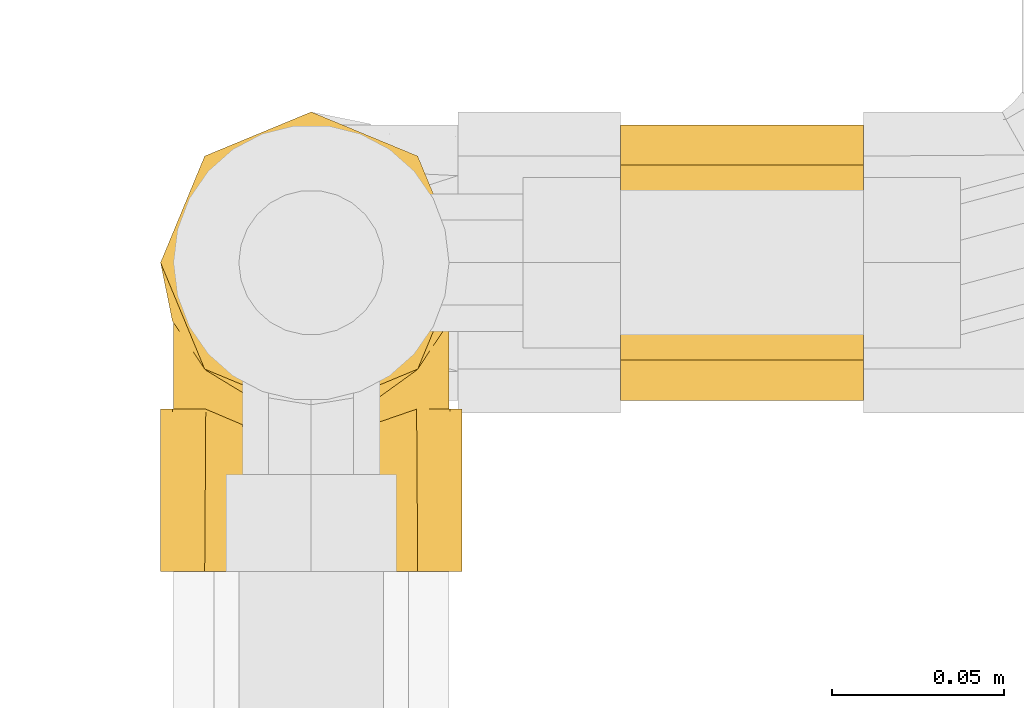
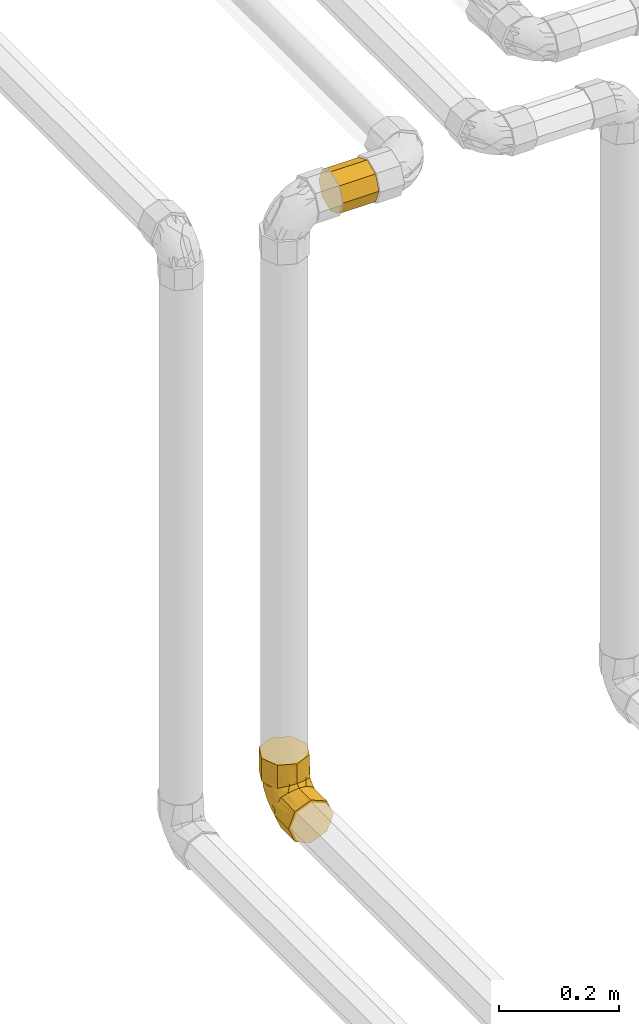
# One storey, part 250 of 652: 2 coverings.
"""IFC2X3 building model written with IfcOpenShell, lengths in millimetres."""

from ifc_helpers import new_model, entity, si_unit, converted_unit, direction, frame, origin, place, context, subcontext, project, spatial, faceted_brep, material, type_object, element, save


model = new_model("IFC2X3")

# Units and contexts
model_context = context("Model", 3, precision=0.01, world=frame((0.0, 0.0, 308426.39999999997)), true_north=direction((6.123233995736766e-17, 1.0)))
plan_context = context("Plan", 3, precision=0.01, world=frame((0.0, 0.0, 308426.39999999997)), true_north=direction((6.123233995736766e-17, 1.0)))
body_context = subcontext(model_context, "Body", "Model", "MODEL_VIEW")
ifc_project = project(units=[si_unit("LENGTHUNIT", "METRE", prefix="MILLI"), si_unit("AREAUNIT", "SQUARE_METRE"), si_unit("VOLUMEUNIT", "CUBIC_METRE"), converted_unit("PLANEANGLEUNIT", "DEGREE", entity("IfcPlaneAngleMeasure", 0.017453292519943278), si_unit("PLANEANGLEUNIT", "RADIAN"), dimensions=[0, 0, 0, 0, 0, 0, 0])], contexts=[model_context, plan_context])

# Site, building, storey
site_placement = place(None, origin())
site = spatial("IfcSite", under=ifc_project, at=site_placement, Name="Default", CompositionType="ELEMENT")
building_placement = place(site_placement, origin())
building = spatial("IfcBuilding", under=site, at=building_placement, CompositionType="ELEMENT")
storey_placement = place(building_placement, frame((0.0, 0.0, 1730.6999999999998)))
storey = spatial("IfcBuildingStorey", under=building, at=storey_placement, Name="EG_Produktion_FFB", CompositionType="ELEMENT", Elevation=1730.6999999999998)

# Coverings
ifc_material = material(Name="Dämmung - Armaflex-Schlauch")
covering_type = type_object("IfcCoveringType", Name="Rohrdämmung außen:Armaflex-Schlauch", PredefinedType="INSULATION")
covering_1_placement = place(storey_placement, frame((78684.68472776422, 51548.30835396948, 2354.684727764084)))
element("IfcCovering", 1, at=covering_1_placement, inside=storey, type_object=covering_type, material=ifc_material, Name="Rohrdämmung außen:Armaflex-Schlauch", ObjectType="Rohrdämmung außen:Armaflex-Schlauch", PredefinedType="INSULATION", context=body_context, shape_type="Brep", body=[
    faceted_brep([(89.03527223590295, 89.7200000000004, 87.85527223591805), (87.32560271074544, 81.24510874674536, 87.85527223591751), (85.61593318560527, 72.77021749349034, 87.85527223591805), (80.76173107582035, 65.62819301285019, 87.85527223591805), (75.90752896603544, 58.48616853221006, 87.85527223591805), (80.04887855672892, 67.59976223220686, 87.85527223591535), (84.19022814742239, 76.71335593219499, 87.85527223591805), (85.31527223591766, 86.71350835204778, 87.85527223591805), (81.774732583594, 94.40209709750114, 87.85527223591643), (78.23419293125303, 102.09068584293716, 87.85527223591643), (74.38937834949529, 110.44003397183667, 87.85527223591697), (70.54456376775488, 118.78938210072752, 87.85527223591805), (57.92991800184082, 123.35795944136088, 87.85527223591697), (45.315272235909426, 127.92653678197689, 87.85527223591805), (37.43329692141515, 123.99884456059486, 87.85527223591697), (29.551321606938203, 120.07115233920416, 87.85527223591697), (21.6693462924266, 116.14346011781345, 87.85527223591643), (13.78737097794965, 112.21576789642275, 87.85527223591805), (10.718682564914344, 102.97856578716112, 87.85527223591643), (8.016977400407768, 94.84603706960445, 87.85527223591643), (5.315272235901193, 86.71350835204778, 87.85527223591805), (6.153990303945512, 82.95558245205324, 87.85527223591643), (6.9927083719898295, 79.19765655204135, 87.85527223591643), (8.33413587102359, 73.18731131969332, 87.85527223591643), (9.675563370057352, 67.17696608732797, 87.85527223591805), (14.723015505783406, 58.48616853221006, 87.85527223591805), (9.868813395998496, 65.62819301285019, 87.85527223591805), (5.014611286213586, 72.77021749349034, 87.85527223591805), (3.3049417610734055, 81.24510874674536, 87.85527223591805), (1.5952722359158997, 89.7200000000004, 87.85527223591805), (5.076533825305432, 98.12450894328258, 87.85527223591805), (7.997917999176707, 105.17735423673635, 87.85527223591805), (11.19924088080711, 112.90603135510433, 87.85527223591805), (14.400563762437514, 120.6347084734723, 87.85527223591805), (22.129240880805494, 123.8360313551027, 87.85527223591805), (29.85791799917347, 127.03735423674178, 87.85527223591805), (36.910764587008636, 129.95873894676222, 87.85527223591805), (45.315272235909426, 133.43999999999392, 87.85527223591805), (53.71978107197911, 129.95873845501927, 87.85527223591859), (60.772626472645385, 127.03735423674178, 87.85527223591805), (68.50130359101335, 123.8360313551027, 87.85527223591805), (76.22998070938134, 120.6347084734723, 87.85527223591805), (79.43130359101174, 112.90603135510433, 87.85527223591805), (82.63262647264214, 105.17735423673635, 87.85527223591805), (85.55401122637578, 98.12450754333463, 87.85527223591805), (5.076533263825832, 81.31549241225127, 135.03527223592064), (7.997917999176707, 74.26264576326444, 135.03527223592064), (11.19924088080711, 66.53396864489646, 135.03527223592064), (14.400563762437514, 58.805291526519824, 135.03527223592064), (22.129240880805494, 55.60396864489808, 135.03527223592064), (29.85791799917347, 52.40264576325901, 135.03527223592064), (37.58659511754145, 49.201322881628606, 135.03527223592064), (45.315272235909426, 46.0, 135.03527223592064), (53.719779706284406, 49.48126097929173, 135.03527223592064), (60.772626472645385, 52.40264576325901, 135.03527223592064), (68.50130359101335, 55.60396864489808, 135.03527223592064), (76.22998070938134, 58.805291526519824, 135.03527223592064), (79.43130359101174, 66.53396864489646, 135.03527223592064), (82.63262647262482, 74.26264576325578, 135.03527223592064), (85.83394935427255, 81.99132288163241, 135.03527223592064), (89.03527223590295, 89.7200000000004, 135.03527223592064), (85.83394935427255, 97.44867711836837, 135.03527223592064), (82.63262647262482, 105.17735423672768, 135.03527223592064), (79.43130359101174, 112.90603135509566, 135.03527223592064), (76.22998070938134, 120.6347084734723, 135.03527223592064), (68.50130359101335, 123.8360313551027, 135.03527223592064), (60.772626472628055, 127.03735423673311, 135.03527223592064), (53.0439493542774, 130.23867711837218, 135.03527223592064), (45.315272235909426, 133.43999999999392, 135.03527223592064), (37.58659511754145, 130.23867711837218, 135.03527223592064), (29.85791799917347, 127.03735423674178, 135.03527223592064), (22.129240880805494, 123.8360313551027, 135.03527223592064), (14.400563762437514, 120.6347084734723, 135.03527223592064), (11.479179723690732, 113.58186350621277, 135.03527223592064), (8.557795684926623, 106.52901853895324, 135.03527223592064), (5.076533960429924, 98.12450926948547, 135.03527223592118), (1.5952722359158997, 89.7200000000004, 135.03527223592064), (45.315272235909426, 46.0, 94.75489207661), (31.66279583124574, 48.18629937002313, 93.70357391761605), (23.192905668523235, 53.336233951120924, 90.77942307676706), (55.29456727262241, 48.41075141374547, 93.56571370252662), (65.27386230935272, 50.821502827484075, 92.37653532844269), (70.59069563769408, 54.65383567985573, 90.1159037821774), (89.03527223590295, 47.18000000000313, 45.31527223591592), (85.55401092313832, 47.18000000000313, 36.91076396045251), (82.63262647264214, 47.18000000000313, 29.8579179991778), (79.43130359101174, 47.18000000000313, 22.12924088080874), (76.22998070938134, 47.18000000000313, 14.400563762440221), (68.50130359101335, 47.18000000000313, 11.199240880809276), (60.772626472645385, 47.18000000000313, 7.9979179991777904), (53.719779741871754, 47.18000000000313, 5.076533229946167), (45.315272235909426, 47.18000000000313, 1.5952722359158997), (36.910763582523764, 47.18000000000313, 5.076533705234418), (29.85791799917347, 47.18000000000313, 7.9979179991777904), (22.129240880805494, 47.18000000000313, 11.199240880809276), (14.400563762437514, 47.18000000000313, 14.400563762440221), (11.19924088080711, 47.18000000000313, 22.12924088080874), (7.997917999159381, 47.18000000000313, 29.8579179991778), (5.076533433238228, 47.18000000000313, 36.91076423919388), (1.5952722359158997, 47.18000000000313, 45.31527223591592), (3.3049417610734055, 47.18000000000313, 53.79016348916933), (5.014611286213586, 47.18000000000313, 62.26505474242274), (9.868813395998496, 47.18000000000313, 69.40707922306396), (14.723015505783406, 47.18000000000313, 76.54910370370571), (10.581665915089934, 47.18000000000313, 67.4355100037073), (6.440316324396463, 47.18000000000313, 58.3219163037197), (5.315272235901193, 47.18000000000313, 48.32176388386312), (8.855811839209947, 47.18000000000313, 40.63317524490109), (12.396351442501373, 47.18000000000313, 32.944586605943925), (16.24116607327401, 47.18000000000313, 24.595238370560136), (20.085980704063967, 47.18000000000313, 16.24589013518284), (32.70062646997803, 47.18000000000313, 11.677312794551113), (45.315272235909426, 47.18000000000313, 7.108735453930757), (52.966063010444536, 47.18000000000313, 10.921225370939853), (60.61685378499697, 47.18000000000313, 14.733715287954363), (68.73001363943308, 47.18000000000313, 18.77660981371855), (76.8431734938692, 47.18000000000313, 22.819504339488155), (79.91186200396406, 47.18000000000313, 32.0567067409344), (82.61356711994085, 47.18000000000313, 40.18923531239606), (85.31527223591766, 47.18000000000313, 48.32176388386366), (84.47655407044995, 47.18000000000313, 52.07969022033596), (83.63783590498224, 47.18000000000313, 55.837616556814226), (82.29640850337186, 47.18000000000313, 61.847961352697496), (80.9549811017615, 47.18000000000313, 67.85830614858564), (75.90752896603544, 47.18000000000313, 76.54910370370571), (80.76173107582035, 47.18000000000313, 69.40707922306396), (85.61593318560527, 47.18000000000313, 62.26505474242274), (87.32560271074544, 47.18000000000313, 53.79016348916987), (4.796595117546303, 0.0, 37.586595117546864), (7.997917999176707, 0.0, 29.8579179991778), (11.19924088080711, 0.0, 22.12924088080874), (14.400563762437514, 0.0, 14.400563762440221), (21.45340882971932, 0.0, 11.479179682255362), (28.506253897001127, 0.0, 8.557795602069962), (36.910763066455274, 0.0, 5.076533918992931), (45.315272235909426, 0.0, 1.5952722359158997), (53.0439493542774, 0.0, 4.796595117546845), (60.772626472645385, 0.0, 7.9979179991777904), (68.50130359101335, 0.0, 11.199240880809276), (76.22998070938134, 0.0, 14.400563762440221), (79.15136521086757, 0.0, 21.453409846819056), (82.07274971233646, 0.0, 28.50625593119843), (85.55401097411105, 0.0, 36.910764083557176), (89.03527223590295, 0.0, 45.31527223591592), (85.55401125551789, 0.0, 53.719779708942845), (82.63262647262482, 0.0, 60.772626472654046), (79.43130359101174, 0.0, 68.5013035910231), (76.22998070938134, 0.0, 76.22998070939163), (68.50130359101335, 0.0, 79.43130359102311), (60.772626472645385, 0.0, 82.63262647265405), (53.0439493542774, 0.0, 85.833949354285), (45.315272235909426, 0.0, 89.03527223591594), (36.910764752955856, 0.0, 85.55401125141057), (29.85791799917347, 0.0, 82.63262647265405), (22.129240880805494, 0.0, 79.43130359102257), (14.400563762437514, 0.0, 76.22998070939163), (11.19924088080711, 0.0, 68.50130359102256), (7.997917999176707, 0.0, 60.772626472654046), (5.076533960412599, 0.0, 53.71978150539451), (1.5952722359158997, 0.0, 45.31527223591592), (35.33597719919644, 41.46955853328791, 86.62452082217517), (45.315272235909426, 40.28038015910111, 89.03527223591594), (25.356682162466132, 42.65873690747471, 84.21376940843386), (20.03984883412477, 44.91936845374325, 80.38143655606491), (58.96774864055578, 41.3316983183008, 86.84897286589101), (67.43763880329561, 44.25584915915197, 81.69903828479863), (12.764668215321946, 102.49262153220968, 66.03128520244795), (7.785872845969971, 83.60598863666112, 55.76616911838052), (8.104982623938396, 95.30418911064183, 70.75443349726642), (6.007022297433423, 71.60753704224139, 53.304196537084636), (5.315272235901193, 59.43767565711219, 55.83084240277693), (5.315272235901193, 61.22785128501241, 56.927507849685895), (5.315272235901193, 66.46160129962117, 60.13371438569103), (5.315272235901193, 71.69535131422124, 63.339920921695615), (5.8643133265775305, 83.66921529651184, 67.29968041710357), (24.578220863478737, 117.4042755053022, 72.12613198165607), (18.409126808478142, 111.85790663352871, 70.74159626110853), (18.91974193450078, 70.85529611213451, 25.809725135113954), (12.401297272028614, 67.52213053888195, 32.33216175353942), (27.82104943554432, 83.79232970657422, 26.756767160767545), (25.71861098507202, 64.52790148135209, 17.558758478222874), (14.905828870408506, 90.43203439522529, 45.32915426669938), (17.6070351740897, 102.6618732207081, 55.64407439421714), (22.306000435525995, 94.87008754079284, 40.24215163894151), (10.642924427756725, 80.53327920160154, 44.412957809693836), (45.315272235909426, 118.67320029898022, 72.64450076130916), (35.03711460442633, 119.31424049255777, 65.21420834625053), (35.87780622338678, 89.03482051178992, 26.98658607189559), (35.333219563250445, 72.1516327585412, 16.736109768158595), (7.9767390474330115, 66.97723217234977, 41.635654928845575), (23.669456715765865, 109.3213085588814, 57.108109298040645), (35.14732952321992, 103.31508755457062, 40.52288095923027), (28.005805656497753, 103.30286827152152, 44.5457728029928), (45.315272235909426, 90.91319084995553, 27.012186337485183), (45.315272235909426, 65.21083649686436, 15.314765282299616), (45.315272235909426, 109.41986381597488, 57.43372928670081), (45.315272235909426, 100.16652733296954, 42.22295781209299), (5.315272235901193, 54.20392564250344, 52.624635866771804), (5.315272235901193, 74.90155815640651, 68.57367143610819), (5.315272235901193, 78.10776499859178, 73.80742195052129), (5.315272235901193, 82.41063667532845, 80.83134709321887), (5.315272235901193, 84.56207251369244, 84.34330966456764), (6.515026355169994, 56.25886182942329, 63.30579836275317), (6.523604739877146, 62.03791845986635, 67.67516595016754), (6.8388078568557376, 70.10566319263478, 78.5151450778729), (5.95142486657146, 68.23490048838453, 69.99439310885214), (8.011933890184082, 62.99433546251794, 75.12919781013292), (9.284155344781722, 54.79248262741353, 71.60390920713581), (45.315272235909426, 43.41108006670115, 91.62419216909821), (21.350681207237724, 48.835072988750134, 85.7741646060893), (12.878665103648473, 55.14442201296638, 79.89085011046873), (9.509001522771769, 64.13683945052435, 82.0024111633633), (82.61861054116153, 59.90607457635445, 72.04093705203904), (81.34638912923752, 63.43136347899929, 80.24279019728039), (77.75188031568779, 55.14442294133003, 79.89084918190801), (85.31527223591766, 78.10776499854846, 73.807421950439), (85.31527223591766, 79.20442983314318, 75.59759657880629), (85.31527223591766, 82.41063667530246, 80.83134709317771), (69.27986274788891, 49.261107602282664, 86.20019977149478), (81.12154256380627, 53.0328610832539, 70.89843373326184), (83.79173653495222, 56.520126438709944, 64.92960889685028), (84.10693976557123, 67.36010606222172, 72.99735331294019), (84.67911968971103, 65.04087848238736, 66.80037051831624), (85.31527223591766, 71.69535131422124, 63.339920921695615), (84.11551813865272, 71.72947358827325, 78.77640980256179), (85.31527223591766, 74.90155815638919, 68.57367143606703), (85.31527223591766, 50.69196282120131, 50.473199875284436), (85.31527223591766, 54.20392564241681, 52.62463586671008), (85.31527223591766, 61.22785128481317, 56.927507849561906), (85.31527223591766, 66.4616012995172, 60.133714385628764), (71.91409724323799, 64.51661720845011, 22.972542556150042), (65.71218477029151, 62.891723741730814, 17.405455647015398), (66.83340013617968, 77.88843229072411, 25.594293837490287), (58.71549396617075, 93.66203085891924, 32.30040737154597), (67.03603928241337, 94.88135093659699, 39.02887162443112), (54.359193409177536, 119.67254054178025, 65.25953143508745), (56.778590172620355, 72.87900692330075, 17.555433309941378), (84.62352215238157, 81.73107619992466, 63.42773562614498), (82.65281657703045, 93.40104666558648, 68.05540963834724), (82.84467155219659, 79.26910431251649, 51.429284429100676), (79.98754021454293, 90.61961422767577, 54.498556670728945), (82.52556187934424, 64.28083963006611, 39.73108369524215), (84.76623113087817, 67.73559194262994, 51.36605692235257), (75.72471529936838, 89.70612046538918, 44.60323981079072), (77.86587628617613, 69.00398843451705, 32.54265152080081), (72.96044433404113, 79.38016234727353, 32.29248434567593), (71.9683491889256, 108.77974526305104, 63.826234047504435), (78.28376597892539, 102.9680398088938, 68.19116674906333), (62.671083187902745, 108.54428370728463, 51.50952341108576), (63.12603991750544, 118.44866051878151, 70.38974905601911), (53.60445762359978, 107.59283931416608, 44.98128137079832)], [[[0, 1, 2, 3, 4, 5, 6, 7, 8, 9, 10, 11, 12, 13, 14, 15, 16, 17, 18, 19, 20, 21, 22, 23, 24, 25, 26, 27, 28, 29, 30, 31, 32, 33, 34, 35, 36, 37, 38, 39, 40, 41, 42, 43, 44]], [[45, 46, 47, 48, 49, 50, 51, 52, 53, 54, 55, 56, 57, 58, 59, 60, 61, 62, 63, 64, 65, 66, 67, 68, 69, 70, 71, 72, 73, 74, 75, 76]], [[45, 27, 47, 46]], [[77, 51, 78]], [[78, 50, 79]], [[51, 77, 52]], [[25, 79, 49]], [[27, 45, 28]], [[48, 26, 25]], [[51, 50, 78]], [[76, 28, 45]], [[76, 29, 28]], [[47, 27, 26]], [[26, 48, 47]], [[25, 49, 48]], [[79, 50, 49]], [[30, 29, 76, 75, 74, 73, 72, 33, 32, 31]], [[33, 72, 71, 70, 69, 68, 37, 36, 35, 34]], [[0, 44, 43, 42, 41, 64, 63, 62, 61, 60]], [[66, 65, 64, 41, 40, 39, 38, 37, 68, 67]], [[3, 57, 56]], [[60, 59, 0]], [[80, 54, 53]], [[58, 2, 1]], [[58, 57, 2]], [[55, 81, 82, 4]], [[53, 77, 80]], [[2, 57, 3]], [[1, 59, 58]], [[56, 4, 3]], [[54, 80, 81]], [[0, 59, 1]], [[53, 52, 77]], [[55, 4, 56]], [[55, 54, 81]], [[83, 84, 85, 86, 87, 88, 89, 90, 91, 92, 93, 94, 95, 96, 97, 98, 99, 100, 101, 102, 103, 104, 105, 106, 107, 108, 109, 110, 111, 112, 113, 114, 115, 116, 117, 118, 119, 120, 121, 122, 123, 124, 125, 126, 127]], [[128, 129, 130, 131, 132, 133, 134, 135, 136, 137, 138, 139, 140, 141, 142, 143, 144, 145, 146, 147, 148, 149, 150, 151, 152, 153, 154, 155, 156, 157, 158, 159]], [[133, 132, 131, 95, 94, 93, 92, 91, 135, 134]], [[95, 131, 130, 129, 128, 159, 99, 98, 97, 96]], [[102, 156, 155]], [[160, 153, 152]], [[99, 159, 100]], [[157, 156, 101, 158]], [[158, 101, 100]], [[152, 161, 160]], [[101, 156, 102]], [[154, 162, 163, 103]], [[155, 103, 102]], [[153, 160, 162]], [[159, 158, 100]], [[152, 151, 161]], [[154, 103, 155]], [[154, 153, 162]], [[125, 147, 146]], [[143, 83, 127]], [[161, 150, 164]], [[164, 149, 165]], [[150, 161, 151]], [[147, 125, 124]], [[126, 144, 127]], [[146, 145, 144, 126]], [[124, 148, 147]], [[143, 127, 144]], [[150, 149, 164]], [[146, 126, 125]], [[124, 165, 148]], [[165, 149, 148]], [[84, 83, 143, 142, 141, 140, 139, 87, 86, 85]], [[87, 139, 138, 137, 136, 135, 91, 90, 89, 88]], [[166, 167, 168]], [[169, 170, 171, 172, 173]], [[19, 168, 174]], [[17, 166, 18]], [[175, 176, 16]], [[177, 109, 178]], [[179, 180, 177]], [[181, 182, 183]], [[166, 181, 184]], [[14, 185, 186]], [[187, 188, 179]], [[184, 189, 167]], [[182, 181, 166]], [[176, 175, 190]], [[186, 191, 192]], [[166, 184, 167]], [[169, 174, 167]], [[188, 193, 194]], [[110, 109, 177]], [[190, 175, 186]], [[175, 16, 15]], [[186, 175, 15]], [[176, 190, 182]], [[186, 15, 14]], [[186, 195, 191]], [[196, 193, 187]], [[179, 183, 192]], [[184, 178, 189]], [[191, 195, 196]], [[178, 109, 108]], [[183, 177, 181]], [[178, 108, 189]], [[181, 177, 178]], [[189, 108, 107]], [[107, 106, 197, 170]], [[170, 169, 107]], [[169, 173, 174]], [[167, 189, 169]], [[107, 169, 189]], [[174, 173, 198, 199, 200, 201, 20]], [[174, 20, 19]], [[168, 19, 18]], [[166, 168, 18]], [[174, 168, 167]], [[111, 180, 188]], [[110, 177, 180]], [[194, 112, 111]], [[178, 184, 181]], [[188, 180, 179]], [[111, 110, 180]], [[179, 191, 187]], [[111, 188, 194]], [[187, 191, 196]], [[193, 188, 187]], [[192, 183, 190]], [[177, 183, 179]], [[166, 17, 176]], [[183, 182, 190]], [[166, 176, 182]], [[17, 16, 176]], [[185, 14, 13]], [[185, 195, 186]], [[186, 192, 190]], [[179, 192, 191]], [[172, 202, 203]], [[204, 205, 206]], [[23, 22, 21, 20, 201, 200, 199]], [[202, 104, 207]], [[208, 77, 78]], [[203, 173, 172]], [[203, 202, 207]], [[105, 104, 202]], [[163, 162, 209]], [[203, 205, 173]], [[197, 106, 105, 171, 170]], [[207, 206, 203]], [[210, 207, 103]], [[104, 103, 207]], [[160, 161, 208]], [[210, 163, 209]], [[206, 207, 210]], [[210, 25, 211]], [[204, 211, 24]], [[209, 25, 210]], [[78, 79, 25, 209]], [[105, 202, 171]], [[210, 103, 163]], [[78, 209, 162]], [[205, 203, 206]], [[172, 171, 202]], [[206, 211, 204]], [[204, 198, 205]], [[204, 24, 23]], [[210, 211, 206]], [[199, 204, 23]], [[198, 204, 199]], [[198, 173, 205]], [[25, 24, 211]], [[78, 160, 208]], [[78, 162, 160]], [[212, 213, 214]], [[6, 215, 216, 217, 7]], [[82, 218, 214]], [[219, 123, 220]], [[214, 213, 4]], [[5, 4, 213]], [[221, 222, 223]], [[208, 80, 77]], [[218, 124, 214]], [[161, 164, 208]], [[214, 124, 219]], [[6, 5, 224]], [[82, 81, 218]], [[224, 5, 213]], [[225, 224, 221]], [[220, 222, 212]], [[122, 121, 120, 119, 226, 227, 228]], [[164, 165, 124, 218]], [[221, 223, 225]], [[213, 212, 221]], [[221, 224, 213]], [[6, 224, 215]], [[214, 4, 82]], [[164, 218, 81]], [[222, 221, 212]], [[225, 215, 224]], [[212, 219, 220]], [[220, 229, 222]], [[220, 123, 122]], [[214, 219, 212]], [[228, 220, 122]], [[229, 220, 228]], [[229, 223, 222]], [[124, 123, 219]], [[164, 80, 208]], [[164, 81, 80]], [[230, 115, 231]], [[232, 233, 234]], [[12, 235, 13]], [[113, 194, 236]], [[237, 216, 215, 225, 223]], [[236, 232, 231]], [[238, 239, 240]], [[230, 231, 232]], [[118, 241, 242]], [[243, 244, 245]], [[246, 10, 247]], [[116, 244, 117]], [[244, 243, 240]], [[244, 239, 241]], [[248, 249, 246]], [[247, 238, 240]], [[237, 242, 239]], [[232, 236, 233]], [[250, 193, 196, 195]], [[113, 236, 114]], [[233, 248, 234]], [[113, 112, 194]], [[193, 236, 194]], [[236, 193, 233]], [[233, 250, 248]], [[231, 115, 114]], [[248, 250, 235]], [[248, 235, 249]], [[235, 250, 195]], [[235, 195, 185, 13]], [[235, 12, 249]], [[12, 11, 249]], [[246, 249, 11]], [[10, 9, 247]], [[234, 246, 243]], [[246, 234, 248]], [[245, 234, 243]], [[246, 11, 10]], [[247, 9, 238]], [[243, 246, 247]], [[238, 9, 8]], [[8, 7, 217, 216]], [[216, 237, 8]], [[237, 223, 242]], [[239, 238, 237]], [[8, 237, 238]], [[242, 223, 229, 228, 227, 226, 119]], [[242, 119, 118]], [[241, 118, 117]], [[244, 241, 117]], [[242, 241, 239]], [[244, 240, 239]], [[247, 240, 243]], [[193, 250, 233]], [[236, 231, 114]], [[230, 232, 245]], [[244, 116, 230]], [[234, 245, 232]], [[244, 230, 245]], [[116, 115, 230]]]),
])
covering_2_placement = place(storey_placement, frame((78819.72000000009, 51596.4330817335, 3558.4047277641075)))
element("IfcCovering", 2, at=covering_2_placement, inside=storey, type_object=covering_type, material=ifc_material, Name="Rohrdämmung außen:Armaflex-Schlauch", ObjectType="Rohrdämmung außen:Armaflex-Schlauch", PredefinedType="INSULATION", context=body_context, shape_type="Brep", body=[
    faceted_brep([(0.0, 69.87954348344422, 69.87954348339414), (0.0, 72.80847567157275, 62.80847567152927), (0.0, 75.73740785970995, 55.737407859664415), (0.0, 78.66634004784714, 48.66634004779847), (0.0, 81.59527223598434, 41.595272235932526), (0.0, 77.52113401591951, 31.75943249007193), (0.0, 73.44699579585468, 21.923592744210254), (0.0, 69.87954348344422, 13.31100098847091), (0.0, 62.808475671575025, 10.382068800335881), (0.0, 55.737407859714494, 7.453136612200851), (0.0, 48.666340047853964, 4.524204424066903), (0.0, 41.59527223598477, 1.595272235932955), (0.0, 31.759433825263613, 5.669409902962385), (0.0, 27.453136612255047, 7.453136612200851), (0.0, 20.382068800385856, 10.382068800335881), (0.0, 13.311000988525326, 13.31100098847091), (0.0, 10.38206880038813, 20.382068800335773), (0.0, 7.453136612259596, 27.453136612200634), (0.0, 4.5242044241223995, 34.52420442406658), (0.0, 1.5952722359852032, 41.595272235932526), (0.0, 5.6694098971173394, 51.431110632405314), (0.0, 7.453136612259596, 55.737407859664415), (0.0, 10.38206880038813, 62.80847567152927), (0.0, 13.311000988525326, 69.87954348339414), (0.0, 20.382068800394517, 72.80847567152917), (0.0, 27.453136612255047, 75.7374078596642), (0.0, 34.52420442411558, 78.66634004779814), (0.0, 41.59527223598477, 81.5952722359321), (0.0, 51.43111063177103, 77.52113457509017), (0.0, 55.737407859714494, 75.7374078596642), (0.0, 62.808475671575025, 72.80847567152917), (70.56000000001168, 13.311000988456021, 69.8795434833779), (70.56000000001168, 10.382068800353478, 62.80847567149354), (70.55999999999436, 7.453136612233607, 55.7374078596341), (70.55999999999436, 4.524204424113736, 48.666340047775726), (70.55999999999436, 1.5952722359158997, 41.59527223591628), (70.55999999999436, 5.669409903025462, 31.75943382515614), (70.55999999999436, 9.743547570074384, 21.923595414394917), (70.56000000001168, 13.311000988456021, 13.311000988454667), (70.560000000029, 20.382068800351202, 10.382068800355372), (70.560000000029, 27.45313661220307, 7.453136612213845), (70.560000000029, 34.524204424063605, 4.5242044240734), (70.560000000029, 41.595272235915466, 1.595272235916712), (70.56000000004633, 51.43111076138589, 5.669409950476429), (70.56000000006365, 61.26694928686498, 9.743547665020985), (70.56000000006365, 69.87954348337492, 13.311000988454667), (70.56000000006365, 72.80847567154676, 20.382068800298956), (70.56000000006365, 75.73740785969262, 27.4531366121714), (70.56000000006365, 78.66634004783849, 34.52420442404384), (70.56000000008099, 81.59527223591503, 41.59527223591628), (70.56000000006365, 77.52113457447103, 51.431110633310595), (70.56000000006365, 73.44699691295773, 61.26694903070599), (70.56000000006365, 69.87954348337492, 69.8795434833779), (70.56000000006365, 62.80847567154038, 72.80847567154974), (70.56000000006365, 55.73740785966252, 75.73740785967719), (70.56000000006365, 48.66634004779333, 78.66634004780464), (70.56000000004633, 41.595272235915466, 81.59527223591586), (70.560000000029, 31.75943383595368, 77.52113457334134), (70.560000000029, 21.92359543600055, 73.44699691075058)], [[[0, 1, 2, 3, 4, 5, 6, 7, 8, 9, 10, 11, 12, 13, 14, 15, 16, 17, 18, 19, 20, 21, 22, 23, 24, 25, 26, 27, 28, 29, 30]], [[31, 32, 33, 34, 35, 36, 37, 38, 39, 40, 41, 42, 43, 44, 45, 46, 47, 48, 49, 50, 51, 52, 53, 54, 55, 56, 57, 58]], [[7, 6, 5, 4, 49, 48, 47, 46, 45]], [[10, 9, 8, 7, 45, 44, 43, 42, 11]], [[17, 16, 15, 38, 37, 36, 35, 19, 18]], [[14, 13, 12, 11, 42, 41, 40, 39, 38, 15]], [[25, 24, 23, 31, 58, 57, 56, 27, 26]], [[22, 21, 20, 19, 35, 34, 33, 32, 31, 23]], [[2, 1, 0, 52, 51, 50, 49, 4, 3]], [[30, 29, 28, 27, 56, 55, 54, 53, 52, 0]]]),
])

save(model, "model.ifc")
